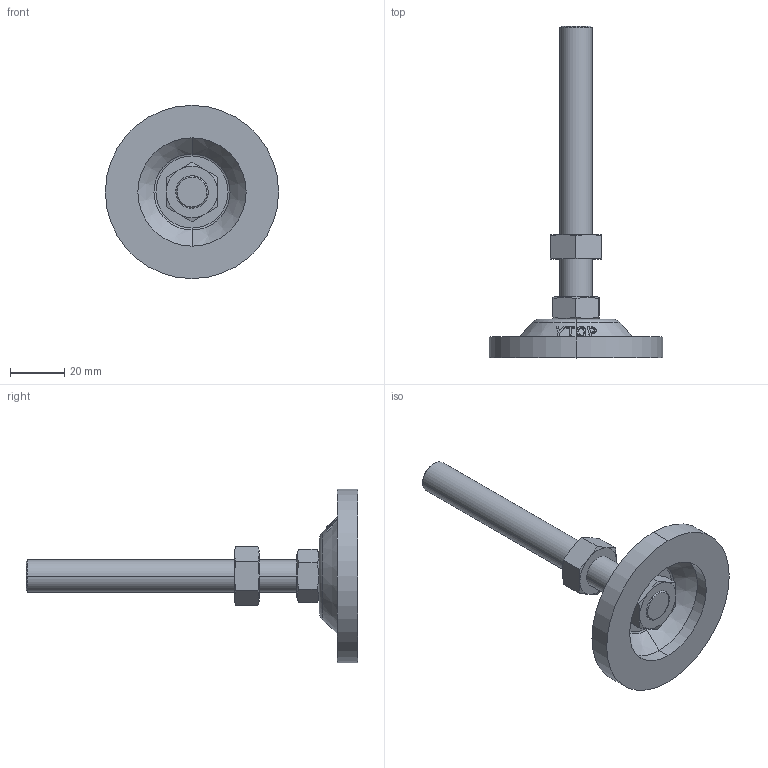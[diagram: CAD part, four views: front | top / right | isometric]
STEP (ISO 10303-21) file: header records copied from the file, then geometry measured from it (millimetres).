
FILE_DESCRIPTION (( 'STEP AP203' ), '1' );
FILE_NAME ('P-64-12100-BR.STEP', '2020-09-10T08:55:05', ( '' ), ( '' ), 'SwSTEP 2.0', 'SolidWorks 2016', '' );
FILE_SCHEMA (( 'CONFIG_CONTROL_DESIGN' ));
Length unit declared in the file: millimetre
Products named in the file (5): 傲郈蹟裝M12炵蹈_M12X100; 脚垫锁紧六角薄螺母M12; 脚垫调节六角螺母M12; P-64-1菁釱-3P; P-64-12100-BR
Assembly tree (4 placements, depth 2):
  P-64-12100-BR
    P-64-1菁釱-3P
    傲郈蹟裝M12炵蹈_M12X100
    脚垫锁紧六角薄螺母M12
    脚垫调节六角螺母M12
Bounding box: 64 x 122.6 x 64 mm (x, y, z)
Volume: 36365.7 mm3; surface area: 22920.1 mm2
Topology: 5 solids, 5 shells, 158 faces, 360 edges, 224 vertices
Faces by surface type: cone 56, bspline 38, plane 34, cylinder 20, torus 10
Entity records: 8568 total; most frequent: CARTESIAN_POINT 4864, ORIENTED_EDGE 720, DIRECTION 546, EDGE_CURVE 360, AXIS2_PLACEMENT_3D 241, VERTEX_POINT 224, B_SPLINE_CURVE_WITH_KNOTS 182, EDGE_LOOP 178
